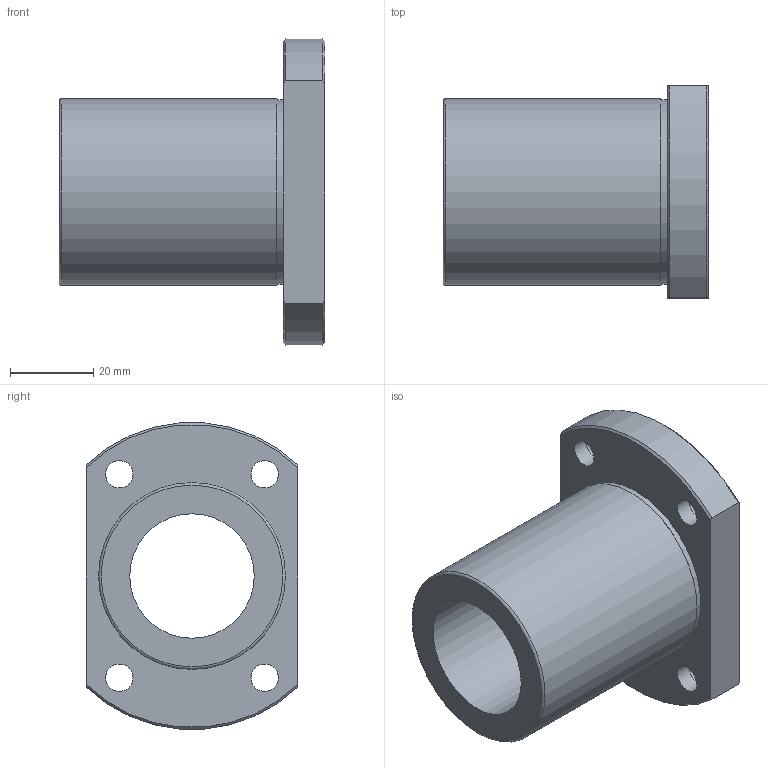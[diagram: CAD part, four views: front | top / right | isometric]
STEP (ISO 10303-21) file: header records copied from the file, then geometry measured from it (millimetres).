
FILE_DESCRIPTION(('STEP AP203'),'1');
FILE_NAME('//192.168.1.1/share/s-4 技術開発/s-4-4_CAD/s-4-4-3_見直し済み/002 修正済み/NFEO-V/NFEO-30VUU.step','2022-03-07T03:05:59',(' '),(' '),'Spatial InterOp 3D',' ',' ');
FILE_SCHEMA(('CONFIG_CONTROL_DESIGN'));
Length unit declared in the file: millimetre
Products named in the file (1): 1
Bounding box: 64 x 51 x 73.74 mm (x, y, z)
Volume: 72177.2 mm3; surface area: 22218.7 mm2
Topology: 1 solids, 1 shells, 28 faces, 59 edges, 39 vertices
Faces by surface type: cylinder 13, plane 10, cone 4, torus 1
Full cylindrical faces by diameter (mm): 6.6 x4, 11 x4, 30 x1, 44.4 x1, 45 x1
Entity records: 778 total; most frequent: CARTESIAN_POINT 139, DIRECTION 128, ORIENTED_EDGE 94, AXIS2_PLACEMENT_3D 60, EDGE_LOOP 56, EDGE_CURVE 47, FACE_OUTER_BOUND 40, VERTEX_POINT 39
